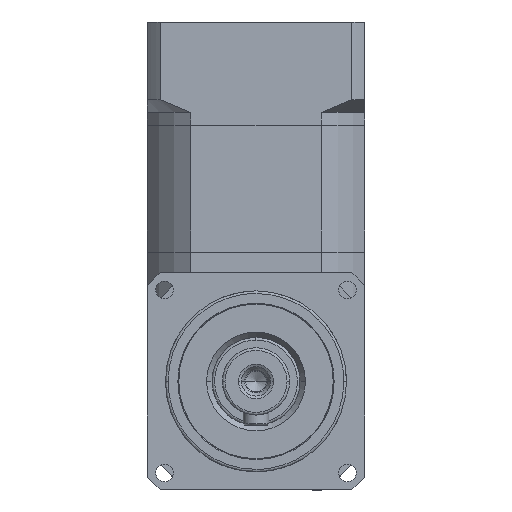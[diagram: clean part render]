
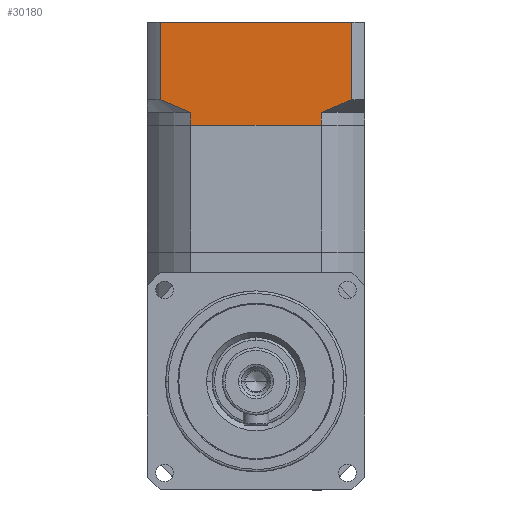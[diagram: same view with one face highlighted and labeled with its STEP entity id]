
A CAD part, front view. The second image highlights one B-rep face of the part: STEP entity #30180.
In plain terms, the highlighted planar face has unit normal (0, -1, 0).
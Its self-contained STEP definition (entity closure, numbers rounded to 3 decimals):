
#31 = DIRECTION ( 'NONE',  ( -1., 0., 0. ) ) ;
#977 = DIRECTION ( 'NONE',  ( 0., 1., 0. ) ) ;
#1079 = ORIENTED_EDGE ( 'NONE', *, *, #10536, .F. ) ;
#1599 = ORIENTED_EDGE ( 'NONE', *, *, #4791, .F. ) ;
#3697 = EDGE_CURVE ( 'NONE', #15352, #35035, #32557, .T. ) ;
#3875 = CARTESIAN_POINT ( 'NONE',  ( 12.619, -21., 56.5 ) ) ;
#4486 = DIRECTION ( 'NONE',  ( 0., 0., -1. ) ) ;
#4675 = CARTESIAN_POINT ( 'NONE',  ( 18.52, -21., 56.5 ) ) ;
#4791 = EDGE_CURVE ( 'NONE', #24996, #19402, #27352, .T. ) ;
#4979 = CARTESIAN_POINT ( 'NONE',  ( 14.627, -21., 39.738 ) ) ;
#5633 = EDGE_CURVE ( 'NONE', #10575, #28405, #16438, .T. ) ;
#5735 = CARTESIAN_POINT ( 'NONE',  ( 12.619, -21., 36.5 ) ) ;
#5813 = AXIS2_PLACEMENT_3D ( 'NONE', #22575, #977, #26194 ) ;
#5969 = ORIENTED_EDGE ( 'NONE', *, *, #5633, .F. ) ;
#6328 = VECTOR ( 'NONE', #9794, 1000. ) ;
#6434 = EDGE_CURVE ( 'NONE', #35035, #10575, #43644, .T. ) ;
#8769 = CARTESIAN_POINT ( 'NONE',  ( 12.619, -21., 39. ) ) ;
#8798 = CARTESIAN_POINT ( 'NONE',  ( -18.52, -21., 41.5 ) ) ;
#9794 = DIRECTION ( 'NONE',  ( 1., 0., 0. ) ) ;
#10253 = ORIENTED_EDGE ( 'NONE', *, *, #11032, .F. ) ;
#10298 = CARTESIAN_POINT ( 'NONE',  ( -16.587, -21., 40.587 ) ) ;
#10536 = EDGE_CURVE ( 'NONE', #19402, #15352, #36935, .T. ) ;
#10575 = VERTEX_POINT ( 'NONE', #17603 ) ;
#10970 = CARTESIAN_POINT ( 'NONE',  ( 18.52, -21., 41.5 ) ) ;
#11032 = EDGE_CURVE ( 'NONE', #28405, #32889, #22718, .T. ) ;
#12293 = CARTESIAN_POINT ( 'NONE',  ( 18.52, -21., 41.5 ) ) ;
#12804 = ORIENTED_EDGE ( 'NONE', *, *, #3697, .F. ) ;
#14025 = ORIENTED_EDGE ( 'NONE', *, *, #6434, .F. ) ;
#15262 = VECTOR ( 'NONE', #4486, 1000. ) ;
#15352 = VERTEX_POINT ( 'NONE', #8798 ) ;
#15414 = FACE_OUTER_BOUND ( 'NONE', #17405, .T. ) ;
#16438 = LINE ( 'NONE', #4675, #15262 ) ;
#16476 = VECTOR ( 'NONE', #29167, 1000. ) ;
#17405 = EDGE_LOOP ( 'NONE', ( #14025, #12804, #1079, #1599, #25856, #22929, #10253, #5969 ) ) ;
#17603 = CARTESIAN_POINT ( 'NONE',  ( 18.52, -21., 56.5 ) ) ;
#17714 = VECTOR ( 'NONE', #23612, 1000. ) ;
#19402 = VERTEX_POINT ( 'NONE', #28262 ) ;
#22575 = CARTESIAN_POINT ( 'NONE',  ( 12.619, -21., 56.5 ) ) ;
#22718 = B_SPLINE_CURVE_WITH_KNOTS ( 'NONE', 3,
 ( #12293, #33928, #4979, #37583 ),
 .UNSPECIFIED., .F., .F.,
 ( 4, 4 ),
 ( 0., 0.006 ),
 .UNSPECIFIED. ) ;
#22922 = VECTOR ( 'NONE', #28272, 1000. ) ;
#22929 = ORIENTED_EDGE ( 'NONE', *, *, #42311, .F. ) ;
#23123 = CARTESIAN_POINT ( 'NONE',  ( -12.619, -21., 56.5 ) ) ;
#23612 = DIRECTION ( 'NONE',  ( 0., 0., 1. ) ) ;
#24996 = VERTEX_POINT ( 'NONE', #31876 ) ;
#25381 = VECTOR ( 'NONE', #31, 1000. ) ;
#25856 = ORIENTED_EDGE ( 'NONE', *, *, #26268, .F. ) ;
#26036 = PLANE ( 'NONE',  #5813 ) ;
#26194 = DIRECTION ( 'NONE',  ( 0., 0., 1. ) ) ;
#26268 = EDGE_CURVE ( 'NONE', #37203, #24996, #35038, .T. ) ;
#27352 = LINE ( 'NONE', #23123, #17714 ) ;
#28262 = CARTESIAN_POINT ( 'NONE',  ( -12.619, -21., 39. ) ) ;
#28272 = DIRECTION ( 'NONE',  ( 0., 0., 1. ) ) ;
#28405 = VERTEX_POINT ( 'NONE', #10970 ) ;
#29167 = DIRECTION ( 'NONE',  ( 0., 0., -1. ) ) ;
#30180 = ADVANCED_FACE ( 'NONE', ( #15414 ), #26036, .F. ) ;
#31640 = CARTESIAN_POINT ( 'NONE',  ( -18.52, -21., 56.5 ) ) ;
#31876 = CARTESIAN_POINT ( 'NONE',  ( -12.619, -21., 36.5 ) ) ;
#32382 = CARTESIAN_POINT ( 'NONE',  ( 0., -21., 36.5 ) ) ;
#32557 = LINE ( 'NONE', #31640, #22922 ) ;
#32889 = VERTEX_POINT ( 'NONE', #8769 ) ;
#33928 = CARTESIAN_POINT ( 'NONE',  ( 16.587, -21., 40.587 ) ) ;
#35035 = VERTEX_POINT ( 'NONE', #37533 ) ;
#35038 = LINE ( 'NONE', #32382, #25381 ) ;
#35607 = CARTESIAN_POINT ( 'NONE',  ( -14.627, -21., 39.738 ) ) ;
#36935 = B_SPLINE_CURVE_WITH_KNOTS ( 'NONE', 3,
 ( #39213, #35607, #10298, #42831 ),
 .UNSPECIFIED., .F., .F.,
 ( 4, 4 ),
 ( 0., 0.006 ),
 .UNSPECIFIED. ) ;
#37203 = VERTEX_POINT ( 'NONE', #5735 ) ;
#37533 = CARTESIAN_POINT ( 'NONE',  ( -18.52, -21., 56.5 ) ) ;
#37583 = CARTESIAN_POINT ( 'NONE',  ( 12.619, -21., 39. ) ) ;
#38870 = CARTESIAN_POINT ( 'NONE',  ( 12.619, -21., 56.5 ) ) ;
#39213 = CARTESIAN_POINT ( 'NONE',  ( -12.619, -21., 39. ) ) ;
#42311 = EDGE_CURVE ( 'NONE', #32889, #37203, #44124, .T. ) ;
#42831 = CARTESIAN_POINT ( 'NONE',  ( -18.52, -21., 41.5 ) ) ;
#43644 = LINE ( 'NONE', #38870, #6328 ) ;
#44124 = LINE ( 'NONE', #3875, #16476 ) ;
